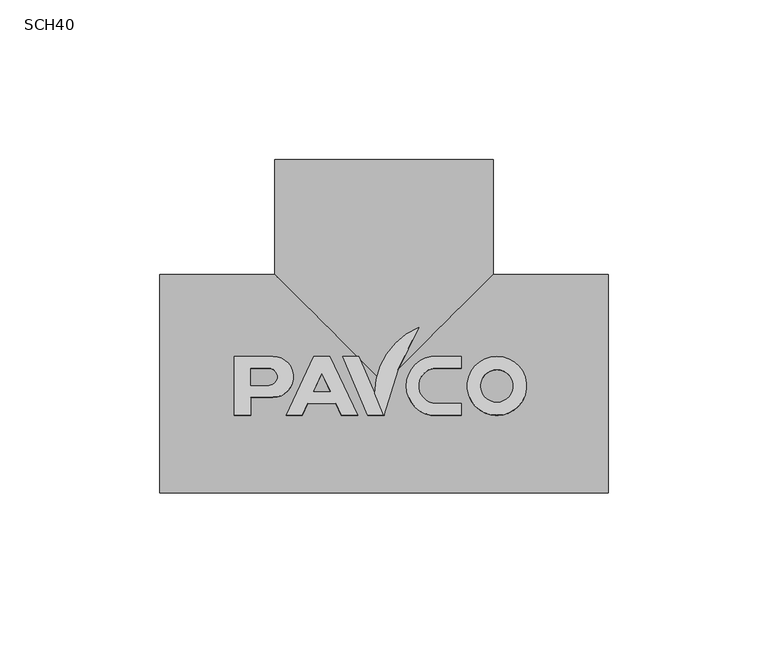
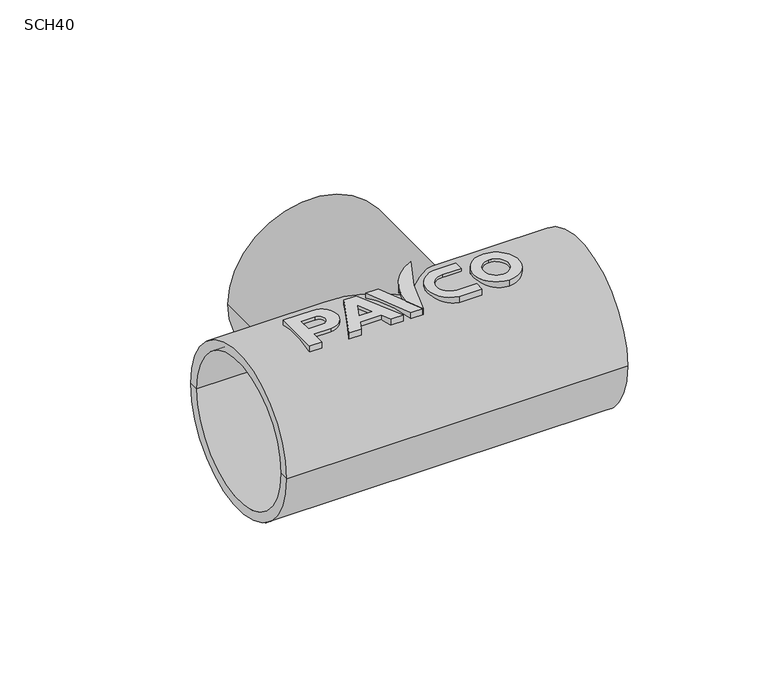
"""IFC4 building model written with IfcOpenShell, lengths in millimetres: pipe fitting geometry, PavcoWavin_UnionesDeTuberia_PVCPresionTee : SCH40."""

import ifcopenshell
import ifcopenshell.guid

model = None  # the IFC model being written
_history = None  # IfcOwnerHistory: only IFC2X3 demands one
_inside = {}  # id of a spatial element -> (the spatial element, [elements in it])
_under = {}  # id of a project, library or spatial element -> (it, [spatial elements below it])
_declared = {}  # id of a project -> (the project, [libraries it declares])
_typed = {}  # id of a type object -> (the type object, [elements of that type])
_made_of = {}  # id of a material, layer set ... -> (it, [elements and type objects made of it])


def new_model(schema):
    """Start an empty IFC model of exactly this schema.

    Asked for "IFC4X3", IfcOpenShell would pick the latest addendum, in which some entities
    have other attributes; the version numbers below select the first issue.
    IFC2X3 requires an IfcOwnerHistory on every rooted entity: one is made here for all.
    """
    global model, _history
    if schema == "IFC4X3":
        model = ifcopenshell.file(schema_version=(4, 3, 0, 0))
    else:
        model = ifcopenshell.file(schema=schema)
    _inside.clear()
    _under.clear()
    _declared.clear()
    _typed.clear()
    _made_of.clear()
    _history = None
    if model.schema == "IFC2X3":
        org = make("IfcOrganization", Name="unknown")
        user = make(
            "IfcPersonAndOrganization",
            ThePerson=make("IfcPerson", FamilyName="unknown"),
            TheOrganization=org,
        )
        app = make(
            "IfcApplication",
            ApplicationDeveloper=org,
            Version="unknown",
            ApplicationFullName="unknown",
            ApplicationIdentifier="unknown",
        )
        _history = make(
            "IfcOwnerHistory",
            OwningUser=user,
            OwningApplication=app,
            ChangeAction="ADDED",
            CreationDate=0,
        )
    return model


def make(cls, **values):
    """One entity of the class cls with the attributes given. An attribute that is None is left unset."""
    return model.create_entity(
        cls, **{name: value for name, value in values.items() if value is not None}
    )


def rooted(cls, **values):
    """An entity with a GlobalId (a new one), such as an element, a storey or a relation."""
    return make(cls, GlobalId=ifcopenshell.guid.new(), OwnerHistory=_history, **values)


def si_unit(unit_type, name, prefix=None):
    """IfcSIUnit, for example si_unit("LENGTHUNIT", "METRE", prefix="MILLI")."""
    return make("IfcSIUnit", UnitType=unit_type, Prefix=prefix, Name=name)


def assignment(units):
    """IfcUnitAssignment: the units of a project."""
    return None if units is None else make("IfcUnitAssignment", Units=units)


def point(xyz):
    """IfcCartesianPoint."""
    return None if xyz is None else make("IfcCartesianPoint", Coordinates=xyz)


def direction(xyz):
    """IfcDirection."""
    return None if xyz is None else make("IfcDirection", DirectionRatios=xyz)


def frame(location, z_axis=None, x_axis=None):
    """IfcAxis2Placement3D, a coordinate frame: its origin and axes. An axis left out is left unset."""
    return make(
        "IfcAxis2Placement3D",
        Location=point(location),
        Axis=direction(z_axis),
        RefDirection=direction(x_axis),
    )


def frame_2d(location, x_axis=None):
    """IfcAxis2Placement2D, a coordinate frame in the plane: its origin and x axis."""
    return make(
        "IfcAxis2Placement2D", Location=point(location), RefDirection=direction(x_axis)
    )


def origin():
    """The frame at (0, 0, 0) with its axes left unset."""
    return frame((0.0, 0.0, 0.0))


def place(relative_to, where):
    """IfcLocalPlacement: puts the frame where relative to a parent placement (None: the world)."""
    return make(
        "IfcLocalPlacement", PlacementRelTo=relative_to, RelativePlacement=where
    )


def context(
    kind, dimensions, precision=None, world=None, true_north=None, identifier=None
):
    """IfcGeometricRepresentationContext, for example the 3D "Model" context."""
    return make(
        "IfcGeometricRepresentationContext",
        ContextIdentifier=identifier,
        ContextType=kind,
        CoordinateSpaceDimension=dimensions,
        Precision=precision,
        WorldCoordinateSystem=world,
        TrueNorth=true_north,
    )


def project(units=None, contexts=None):
    """IfcProject with its units and contexts."""
    return rooted(
        "IfcProject",
        Name="project",
        RepresentationContexts=contexts,
        UnitsInContext=assignment(units),
    )


def spatial(cls, under=None, at=None, **own):
    """A site, building, storey or space (cls), placed at a placement, below another one or the project."""
    s = rooted(cls, ObjectPlacement=at, **own)
    if under is not None:
        _under.setdefault(under.id(), (under, []))[1].append(s)
    return s


def polyline(points):
    """IfcPolyline through the points."""
    return make("IfcPolyline", Points=[point(p) for p in points])


def circle_curve(where, radius):
    """IfcCircle in the frame where."""
    return make("IfcCircle", Position=where, Radius=radius)


def ellipse_curve(where, semi_axis1, semi_axis2):
    """IfcEllipse in the frame where."""
    return make(
        "IfcEllipse", Position=where, SemiAxis1=semi_axis1, SemiAxis2=semi_axis2
    )


def trimmed(basis, trim1, trim2, sense, master):
    """IfcTrimmedCurve: the piece of a basis curve between two trims."""
    return make(
        "IfcTrimmedCurve",
        BasisCurve=basis,
        Trim1=trim1,
        Trim2=trim2,
        SenseAgreement=sense,
        MasterRepresentation=master,
    )


def segment(curve, same_sense, transition):
    """IfcCompositeCurveSegment."""
    return make(
        "IfcCompositeCurveSegment",
        Transition=transition,
        SameSense=same_sense,
        ParentCurve=curve,
    )


def composite_curve(segments, self_intersect=None):
    """IfcCompositeCurve: segments joined end to end."""
    return make("IfcCompositeCurve", Segments=segments, SelfIntersect=self_intersect)


def outline(outer, holes=None, kind="AREA"):
    """IfcArbitraryClosedProfileDef: a profile drawn as a closed curve; with holes, ...WithVoids."""
    if holes is None:
        return make("IfcArbitraryClosedProfileDef", ProfileType=kind, OuterCurve=outer)
    return make(
        "IfcArbitraryProfileDefWithVoids",
        ProfileType=kind,
        OuterCurve=outer,
        InnerCurves=holes,
    )


def extrude(swept, where, along, depth):
    """IfcExtrudedAreaSolid: the profile swept, set in the frame where, extruded along a direction by depth."""
    return make(
        "IfcExtrudedAreaSolid",
        SweptArea=swept,
        Position=where,
        ExtrudedDirection=direction(along),
        Depth=depth,
    )


def shape(context_of_items, identifier, shape_type, items):
    """IfcShapeRepresentation: the items that make up one representation, for example the "Body"."""
    return make(
        "IfcShapeRepresentation",
        ContextOfItems=context_of_items,
        RepresentationIdentifier=identifier,
        RepresentationType=shape_type,
        Items=items,
    )


def source(mapping_origin, context_of_items, identifier, shape_type, items):
    """IfcRepresentationMap: a shape defined once, which mapped items show again and again."""
    return make(
        "IfcRepresentationMap",
        MappingOrigin=mapping_origin,
        MappedRepresentation=shape(context_of_items, identifier, shape_type, items),
    )


def transform(
    local_origin,
    x_axis=None,
    y_axis=None,
    z_axis=None,
    scale=None,
    scale2=None,
    scale3=None,
    uniform=True,
):
    """IfcCartesianTransformationOperator3D, or its non-uniform kind. x_axis, y_axis, z_axis: its Axis1, 2, 3."""
    if uniform:
        return make(
            "IfcCartesianTransformationOperator3D",
            Axis1=direction(x_axis),
            Axis2=direction(y_axis),
            LocalOrigin=point(local_origin),
            Scale=scale,
            Axis3=direction(z_axis),
        )
    return make(
        "IfcCartesianTransformationOperator3DnonUniform",
        Axis1=direction(x_axis),
        Axis2=direction(y_axis),
        LocalOrigin=point(local_origin),
        Scale=scale,
        Axis3=direction(z_axis),
        Scale2=scale2,
        Scale3=scale3,
    )


def mapped(mapping_source, mapping_target):
    """IfcMappedItem: shows the shape of a source again, moved by a transform."""
    return make(
        "IfcMappedItem", MappingSource=mapping_source, MappingTarget=mapping_target
    )


def made_of(thing, what):
    """Note that an element or type object is made of a material, layer set ...; save() writes the relation."""
    if what is not None:
        _made_of.setdefault(what.id(), (what, []))[1].append(thing)
    return thing


def element(
    cls,
    number,
    at=None,
    inside=None,
    cuts=None,
    type_object=None,
    material=None,
    context=None,
    identifier="Body",
    shape_type=None,
    held_by="IfcProductDefinitionShape",
    body=None,
    shapes=None,
    **own,
):
    """One element of the class cls, such as IfcWall. Its Tag is "e" and its number.

    at: its placement. inside: the storey or other place that contains it. cuts: it is an
    opening in that element (IfcRelVoidsElement). A single representation is given by context,
    identifier, shape_type and body (its items); several are given by shapes. held_by: the class
    of the entity that holds the representations. save() writes the other relations.
    """
    e = rooted(cls, Tag="e%d" % number, ObjectPlacement=at, **own)
    if body is not None:
        shapes = [shape(context, identifier, shape_type, body)]
    if shapes is not None:
        e.Representation = make(held_by, Representations=shapes)
    if inside is not None:
        _inside.setdefault(inside.id(), (inside, []))[1].append(e)
    if cuts is not None:
        rooted(
            "IfcRelVoidsElement", RelatingBuildingElement=cuts, RelatedOpeningElement=e
        )
    if type_object is not None:
        _typed.setdefault(type_object.id(), (type_object, []))[1].append(e)
    return made_of(e, material)


def aggregate(whole, parts):
    """IfcRelAggregates: a whole, such as a stair, and the parts it consists of."""
    return rooted("IfcRelAggregates", RelatingObject=whole, RelatedObjects=parts)


def save(model, path):
    """Write the relations noted so far, then the file.

    IfcRelAggregates (storeys below a building ...), IfcRelContainedInSpatialStructure (elements
    in a storey), IfcRelDefinesByType, IfcRelAssociatesMaterial and IfcRelDeclares: one each for
    every whole, place, type object, material and project.
    """
    for whole, parts in _under.values():
        aggregate(whole, parts)
    for where, things in _inside.values():
        rooted(
            "IfcRelContainedInSpatialStructure",
            RelatedElements=things,
            RelatingStructure=where,
        )
    for kind, things in _typed.values():
        rooted("IfcRelDefinesByType", RelatedObjects=things, RelatingType=kind)
    for what, things in _made_of.values():
        rooted("IfcRelAssociatesMaterial", RelatedObjects=things, RelatingMaterial=what)
    for by, libraries in _declared.values():
        rooted("IfcRelDeclares", RelatingContext=by, RelatedDefinitions=libraries)
    model.write(path)


def plane_surface(at):
    """IfcPlane: the flat surface through the origin of the frame at, square to its z axis."""
    return make("IfcPlane", Position=at)


def cylinder_surface(at, radius):
    """IfcCylindricalSurface: all points at the distance radius from the z axis of the frame at."""
    return make("IfcCylindricalSurface", Position=at, Radius=radius)


def revolved_surface(curve, axis_point, axis_direction):
    """IfcSurfaceOfRevolution: the curve turned about the line through axis_point along axis_direction."""
    return make(
        "IfcSurfaceOfRevolution",
        SweptCurve=make("IfcArbitraryOpenProfileDef", ProfileType="CURVE", Curve=curve),
        AxisPosition=make("IfcAxis1Placement", Location=point(axis_point), Axis=direction(axis_direction)),
    )


def advanced_brep(points, edges, surfaces, faces):
    """IfcAdvancedBrep: a solid bounded by faces that lie on surfaces and meet in shared edges.

    An edge is (start, end): straight between two places in points (the first is 0);
    or (start, end, curve); or (start, end, curve, False) where it runs against its curve.
    A face is (place in surfaces, loops), or (place, loops, False) where it looks against
    its surface's normal. A loop lists edges by number (the first is 1), with a minus sign
    where the edge is run from its end to its start. The first loop is the outer one.
    """
    corners = [point(p) for p in points]
    vertices = [make("IfcVertexPoint", VertexGeometry=c) for c in corners]
    made = []
    for start, end, *more in edges:
        made.append(
            make(
                "IfcEdgeCurve",
                EdgeStart=vertices[start],
                EdgeEnd=vertices[end],
                EdgeGeometry=more[0] if more else make("IfcPolyline", Points=[corners[start], corners[end]]),
                SameSense=more[1] if len(more) > 1 else True,
            )
        )
    hull = []
    for where, loops, *sense in faces:
        bounds = []
        for j, loop in enumerate(loops):
            ring = [make("IfcOrientedEdge", EdgeElement=made[abs(k) - 1], Orientation=k > 0) for k in loop]
            bounds.append(
                make(
                    "IfcFaceOuterBound" if j == 0 else "IfcFaceBound",
                    Bound=make("IfcEdgeLoop", EdgeList=ring),
                    Orientation=True,
                )
            )
        hull.append(make("IfcAdvancedFace", Bounds=bounds, FaceSurface=surfaces[where], SameSense=sense[0] if sense else True))
    return make("IfcAdvancedBrep", Outer=make("IfcClosedShell", CfsFaces=hull))


def sch40_1e0d48bb(model_context):
    return source(origin(), model_context, "Body", "SolidModel", [
        extrude(outline(polyline([(0.0, 0.0), (5.08, 0.0), (13.7262766, -18.542), (8.6462766, -18.542), (6.8696444, -14.732), (-1.7896444, -14.732), (-3.5662766, -18.542), (-8.6462766, -18.542), (0.0, 0.0)]), holes=[polyline([(5.1167007, -10.9727999), (2.54, -5.4470476), (-0.0367007, -10.9727999), (5.1167007, -10.9727999)])]), frame((16.9012766, 8.4922835, -34.9551261), z_axis=(0.0, -0.0002484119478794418, 0.9999999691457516), x_axis=(1.0, 0.0, 0.0)), (0.0, 0.0, 1.0), 2.6455373),
        extrude(outline(composite_curve([segment(polyline([(-7.5692, 0.0), (0.0, 0.0)]), True, "CONTINUOUS"), segment(trimmed(circle_curve(frame_2d((55.6167117, -77.9199081)), 95.7326), [point((0.0, 0.0))], [point((-21.1313779, -20.696998))], True, "CARTESIAN"), True, "CONTINUOUS"), segment(trimmed(circle_curve(frame_2d((1.5253568, -20.7513764)), 22.6568), [point((-21.1313779, -20.696998))], [point((-7.5692, 0.0))], False, "CARTESIAN"), True, "CONTINUOUS")], self_intersect=False)), frame((0.0, -10.0497159, -34.9597321), z_axis=(0.0, -0.0002484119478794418, 0.9999999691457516), x_axis=(-0.3907311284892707, -0.9205048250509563, -0.00022866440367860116)), (0.0, 0.0, 1.0), 2.6455373),
        extrude(outline(polyline([(0.0, 0.0), (5.08, 0.0), (-2.790612, -18.542), (-7.870612, -18.542), (0.0, 0.0)])), frame((5.08, -10.0497159, -34.9597321), z_axis=(0.0, -0.0002484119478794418, 0.9999999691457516), x_axis=(-1.0, 0.0, 0.0)), (0.0, 0.0, 1.0), 2.6455373),
        extrude(outline(composite_curve([segment(trimmed(circle_curve(frame_2d((0.0, -9.4112923)), 9.4112924), [point((-1.618945, -18.6822923))], [point((-1.618945, -0.1402923))], False, "CARTESIAN"), True, "CONTINUOUS"), segment(polyline([(-1.618945, -0.1402923), (7.7591076, -0.1402923), (7.7591076, -3.9502923), (-0.1402924, -3.9502923)]), True, "CONTINUOUS"), segment(trimmed(circle_curve(frame_2d((-0.1402924, -9.4112923)), 5.461), [point((-0.1402924, -3.9502923))], [point((-0.1402924, -14.8722924))], True, "CARTESIAN"), True, "CONTINUOUS"), segment(polyline([(-0.1402924, -14.8722924), (7.7591076, -14.8722924), (7.7591076, -18.6822923), (-1.618945, -18.6822923)]), True, "CONTINUOUS")], self_intersect=False)), frame((-16.3962924, -10.1900082, -34.959767), z_axis=(0.0, -0.0002484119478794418, 0.9999999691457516), x_axis=(-1.0, 0.0, 0.0)), (0.0, 0.0, 1.0), 2.6455373),
        extrude(outline(composite_curve([segment(trimmed(circle_curve(frame_2d((0.0, -9.271)), 9.271), [point((0.0, -18.542))], [point((0.0, 0.0))], False, "CARTESIAN"), True, "CONTINUOUS"), segment(trimmed(circle_curve(frame_2d((0.0, -9.271)), 9.271), [point((0.0, 0.0))], [point((0.0, -18.542))], False, "CARTESIAN"), True, "CONTINUOUS")], self_intersect=False), holes=[composite_curve([segment(trimmed(circle_curve(frame_2d((0.0, -9.271)), 5.0376667), [point((0.0, -14.3086666))], [point((0.0, -4.2333333))], True, "CARTESIAN"), True, "CONTINUOUS"), segment(trimmed(circle_curve(frame_2d((0.0, -9.271)), 5.0376667), [point((0.0, -4.2333333))], [point((0.0, -14.3086666))], True, "CARTESIAN"), True, "CONTINUOUS")], self_intersect=False)]), frame((-35.306, -10.0497159, -34.9597321), z_axis=(0.0, -0.0002484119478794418, 0.9999999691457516), x_axis=(-1.0, 0.0, 0.0)), (0.0, 0.0, 1.0), 2.6455373),
        extrude(outline(composite_curve([segment(polyline([(-18.542, 0.0), (0.0, 0.0), (0.0, -5.08), (-5.6642, -5.08), (-5.6642, -11.9770539)]), True, "CONTINUOUS"), segment(trimmed(circle_curve(frame_2d((-12.1031, -11.9770539)), 6.4389), [point((-5.6642, -11.9770539))], [point((-18.542, -11.9770539))], False, "CARTESIAN"), True, "CONTINUOUS"), segment(polyline([(-18.542, -11.9770539), (-18.542, 0.0)]), True, "CONTINUOUS")], self_intersect=False), holes=[composite_curve([segment(polyline([(-9.4742, -5.08), (-14.7320001, -5.08), (-14.7320001, -10.7188)]), True, "CONTINUOUS"), segment(trimmed(circle_curve(frame_2d((-12.1031, -10.7188)), 2.6289), [point((-14.7320001, -10.7188))], [point((-9.4742, -10.7188))], True, "CARTESIAN"), True, "CONTINUOUS"), segment(polyline([(-9.4742, -10.7188), (-9.4742, -5.08)]), True, "CONTINUOUS")], self_intersect=False)]), frame((46.7614, -10.0497159, -34.9597321), z_axis=(0.0, -0.0002484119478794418, 0.9999999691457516), x_axis=(0.0, -0.9999999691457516, -0.0002484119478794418)), (0.0, 0.0, 1.0), 2.6455373),
        extrude(outline(polyline([(0.0, 0.0), (8.6462766, -18.542), (3.5662766, -18.542), (1.7896444, -14.7319999), (-6.8696444, -14.7319999), (-8.6462766, -18.542), (-13.7262766, -18.542), (-5.08, 0.0), (0.0, 0.0)]), holes=[polyline([(-5.1167007, -10.9727999), (0.0367007, -10.9727999), (-2.54, -5.4470476), (-5.1167007, -10.9727999)])]), frame((-16.9012766, 8.5627588, 32.2908101), z_axis=(0.0, 0.002450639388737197, 0.9999969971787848), x_axis=(1.0, 0.0, 0.0)), (0.0, 0.0, 1.0), 2.6455373),
        extrude(outline(composite_curve([segment(trimmed(circle_curve(frame_2d((-1.5253569, -20.7513764)), 22.6568), [point((7.5692, 0.0))], [point((21.131378, -20.6969981))], False, "CARTESIAN"), True, "CONTINUOUS"), segment(trimmed(circle_curve(frame_2d((-55.6167117, -77.9199081)), 95.7326), [point((21.131378, -20.6969981))], [point((0.0, 0.0))], True, "CARTESIAN"), True, "CONTINUOUS"), segment(polyline([(0.0, 0.0), (7.5692, 0.0)]), True, "CONTINUOUS")], self_intersect=False)), frame((0.0, -9.9791855, 32.3362498), z_axis=(0.0, 0.0024506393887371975, 0.9999969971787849), x_axis=(-0.39073112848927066, 0.920502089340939, -0.002255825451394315)), (0.0, 0.0, 1.0), 2.6455373),
        extrude(outline(polyline([(0.0, 0.0), (7.870612, -18.542), (2.790612, -18.542), (-5.08, 0.0), (0.0, 0.0)])), frame((-5.08, -9.9791855, 32.3362498), z_axis=(0.0, 0.002450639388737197, 0.9999969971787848), x_axis=(-1.0, 0.0, 0.0)), (0.0, 0.0, 1.0), 2.6455373),
        extrude(outline(composite_curve([segment(polyline([(1.618945, -18.6822923), (-7.7591076, -18.6822923), (-7.7591076, -14.8722924), (0.1402924, -14.8722924)]), True, "CONTINUOUS"), segment(trimmed(circle_curve(frame_2d((0.1402924, -9.4112924)), 5.461), [point((0.1402924, -14.8722924))], [point((0.1402924, -3.9502924))], True, "CARTESIAN"), True, "CONTINUOUS"), segment(polyline([(0.1402924, -3.9502924), (-7.7591076, -3.9502924), (-7.7591076, -0.1402923), (1.618945, -0.1402923)]), True, "CONTINUOUS"), segment(trimmed(circle_curve(frame_2d((0.0, -9.4112924)), 9.4112924), [point((1.618945, -0.1402923))], [point((1.618945, -18.6822923))], False, "CARTESIAN"), True, "CONTINUOUS")], self_intersect=False)), frame((16.3962924, -10.1194774, 32.3365936), z_axis=(0.0, 0.002450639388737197, 0.9999969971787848), x_axis=(-1.0, 0.0, 0.0)), (0.0, 0.0, 1.0), 2.6455373),
        extrude(outline(composite_curve([segment(trimmed(circle_curve(frame_2d((0.0, -9.271)), 9.271), [point((0.0, -18.542))], [point((0.0, 0.0))], False, "CARTESIAN"), True, "CONTINUOUS"), segment(trimmed(circle_curve(frame_2d((0.0, -9.271)), 9.271), [point((0.0, 0.0))], [point((0.0, -18.542))], False, "CARTESIAN"), True, "CONTINUOUS")], self_intersect=False), holes=[composite_curve([segment(trimmed(circle_curve(frame_2d((0.0, -9.271)), 5.0376667), [point((0.0, -14.3086667))], [point((0.0, -4.2333333))], True, "CARTESIAN"), True, "CONTINUOUS"), segment(trimmed(circle_curve(frame_2d((0.0, -9.271)), 5.0376667), [point((0.0, -4.2333333))], [point((0.0, -14.3086667))], True, "CARTESIAN"), True, "CONTINUOUS")], self_intersect=False)]), frame((35.306, -9.9791855, 32.3362498), z_axis=(0.0, 0.002450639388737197, 0.9999969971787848), x_axis=(-1.0, 0.0, 0.0)), (0.0, 0.0, 1.0), 2.6455373),
        extrude(outline(composite_curve([segment(polyline([(18.542, 0.0), (18.542, -11.9770539)]), True, "CONTINUOUS"), segment(trimmed(circle_curve(frame_2d((12.1031, -11.9770539)), 6.4389), [point((18.542, -11.9770539))], [point((5.6642, -11.9770539))], False, "CARTESIAN"), True, "CONTINUOUS"), segment(polyline([(5.6642, -11.9770539), (5.6642, -5.08), (0.0, -5.08), (0.0, 0.0), (18.542, 0.0)]), True, "CONTINUOUS")], self_intersect=False), holes=[composite_curve([segment(polyline([(9.4742, -5.08), (9.4742, -10.7188)]), True, "CONTINUOUS"), segment(trimmed(circle_curve(frame_2d((12.1031, -10.7188)), 2.6289), [point((9.4742, -10.7188))], [point((14.732, -10.7188))], True, "CARTESIAN"), True, "CONTINUOUS"), segment(polyline([(14.732, -10.7188), (14.732, -5.08), (9.4742, -5.08)]), True, "CONTINUOUS")], self_intersect=False)]), frame((-46.7614, -9.9791855, 32.3362498), z_axis=(0.0, 0.002450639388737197, 0.9999969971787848), x_axis=(0.0, 0.9999969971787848, -0.002450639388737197)), (0.0, 0.0, 1.0), 2.6455373),
        advanced_brep(
        [(70.05, -34.163, 0.0), (70.05, 34.163, 0.0), (70.05, 30.165, 0.0), (70.05, -30.165, 0.0), (-70.05, -34.163, 0.0), (-70.05, 34.163, 0.0), (-34.163, 34.163, 0.0), (0.0, 0.0, -34.163), (34.163, 34.163, 0.0), (0.0, 0.0, 34.163), (-70.05, -30.165, 0.0), (-70.05, 30.165, 0.0), (-34.163, 70.05, 0.0), (34.163, 70.05, 0.0), (-30.165, 70.05, 0.0), (30.165, 70.05, 0.0), (-31.85, -30.165, 0.0), (-31.85, 30.165, 0.0), (-31.85, 0.0, 0.0), (31.85, -30.165, 0.0), (31.85, 30.165, 0.0), (31.85, 0.0, 0.0), (30.165, 31.85, 0.0), (-30.165, 31.85, 0.0), (0.0, 31.85, 0.0)],
        [
            (0, 1, circle_curve(frame((70.05, 0.0, 0.0), z_axis=(1.0, 0.0, 0.0), x_axis=(0.0, 1.0, 0.0)), 34.163)),
            (1, 2),
            (2, 3, circle_curve(frame((70.05, 0.0, 0.0), z_axis=(-1.0, 0.0, 0.0), x_axis=(0.0, 1.0, 0.0)), 30.165)),
            (3, 0),
            (1, 0, circle_curve(frame((70.05, 0.0, 0.0), z_axis=(1.0, 0.0, 0.0), x_axis=(0.0, 1.0, 0.0)), 34.163)),
            (3, 2, circle_curve(frame((70.05, 0.0, 0.0), z_axis=(-1.0, 0.0, 0.0), x_axis=(0.0, 1.0, 0.0)), 30.165)),
            (0, 4),
            (4, 5, circle_curve(frame((-70.05, 0.0, 0.0), z_axis=(1.0, 0.0, 0.0), x_axis=(0.0, 1.0, 0.0)), 34.163)),
            (5, 6),
            (6, 7, ellipse_curve(frame((0.0, 0.0, 0.0), z_axis=(-0.7071067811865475, -0.7071067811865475, 0.0), x_axis=(-0.7071067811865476, 0.7071067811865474, 0.0)), 48.3137779, 34.163)),
            (7, 8, ellipse_curve(frame((0.0, 0.0, 0.0), z_axis=(0.7071067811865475, -0.7071067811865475, 0.0), x_axis=(-0.7071067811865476, -0.7071067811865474, 0.0)), 48.3137779, 34.163)),
            (8, 1),
            (8, 9, ellipse_curve(frame((0.0, 0.0, 0.0), z_axis=(0.7071067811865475, -0.7071067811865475, 0.0), x_axis=(-0.7071067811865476, -0.7071067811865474, 0.0)), 48.3137779, 34.163)),
            (9, 6, ellipse_curve(frame((0.0, 0.0, 0.0), z_axis=(-0.7071067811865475, -0.7071067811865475, 0.0), x_axis=(-0.7071067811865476, 0.7071067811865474, 0.0)), 48.3137779, 34.163)),
            (5, 4, circle_curve(frame((-70.05, 0.0, 0.0), z_axis=(1.0, 0.0, 0.0), x_axis=(0.0, 1.0, 0.0)), 34.163)),
            (4, 10),
            (10, 11, circle_curve(frame((-70.05, 0.0, 0.0), z_axis=(1.0, 0.0, 0.0), x_axis=(0.0, 1.0, 0.0)), 30.165)),
            (11, 5),
            (11, 10, circle_curve(frame((-70.05, 0.0, 0.0), z_axis=(1.0, 0.0, 0.0), x_axis=(0.0, 1.0, 0.0)), 30.165)),
            (12, 13, circle_curve(frame((0.0, 70.05, 0.0), z_axis=(0.0, -1.0, 0.0), x_axis=(1.0, 0.0, 0.0)), 34.163)),
            (13, 8),
            (6, 12),
            (13, 12, circle_curve(frame((0.0, 70.05, 0.0), z_axis=(0.0, -1.0, 0.0), x_axis=(1.0, 0.0, 0.0)), 34.163)),
            (12, 14),
            (14, 15, circle_curve(frame((0.0, 70.05, 0.0), z_axis=(0.0, -1.0, 0.0), x_axis=(-1.0, 0.0, 0.0)), 30.165)),
            (15, 13),
            (15, 14, circle_curve(frame((0.0, 70.05, 0.0), z_axis=(0.0, -1.0, 0.0), x_axis=(-1.0, 0.0, 0.0)), 30.165)),
            (10, 16),
            (16, 17, circle_curve(frame((-31.85, 0.0, 0.0), z_axis=(1.0, 0.0, 0.0), x_axis=(0.0, 1.0, 0.0)), 30.165)),
            (17, 11),
            (17, 16, circle_curve(frame((-31.85, 0.0, 0.0), z_axis=(1.0, 0.0, 0.0), x_axis=(0.0, 1.0, 0.0)), 30.165)),
            (16, 18),
            (18, 17),
            (19, 3),
            (2, 20),
            (20, 19, circle_curve(frame((31.85, 0.0, 0.0), z_axis=(-1.0, 0.0, 0.0), x_axis=(0.0, 1.0, 0.0)), 30.165)),
            (19, 20, circle_curve(frame((31.85, 0.0, 0.0), z_axis=(-1.0, 0.0, 0.0), x_axis=(0.0, 1.0, 0.0)), 30.165)),
            (20, 21),
            (21, 19),
            (22, 15),
            (14, 23),
            (23, 22, circle_curve(frame((0.0, 31.85, 0.0), z_axis=(0.0, -1.0, 0.0), x_axis=(-1.0, 0.0, 0.0)), 30.165)),
            (22, 23, circle_curve(frame((0.0, 31.85, 0.0), z_axis=(0.0, -1.0, 0.0), x_axis=(-1.0, 0.0, 0.0)), 30.165)),
            (23, 24),
            (24, 22),
        ],
        [
            plane_surface(frame((70.05, 0.0, 0.0), z_axis=(1.0, 0.0, 0.0), x_axis=(0.0, 1.0, 0.0))),
            cylinder_surface(frame((1910.05, 0.0, 0.0), z_axis=(-1.0, 0.0, 0.0), x_axis=(0.0, 1.0, 0.0)), 34.163),
            plane_surface(frame((-70.05, 0.0, 0.0), z_axis=(-1.0, 0.0, 0.0), x_axis=(0.0, 1.0, 0.0))),
            cylinder_surface(frame((0.0, 1910.05, 0.0), z_axis=(0.0, 1.0, 0.0), x_axis=(1.0, 0.0, 0.0)), 34.163),
            plane_surface(frame((0.0, 70.05, 0.0), z_axis=(0.0, 1.0, 0.0), x_axis=(1.0, 0.0, 0.0))),
            revolved_surface(polyline([(-70.04999999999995, 30.165, 0.0), (-31.84999999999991, 30.165, 0.0)]), (1973.2125, 0.0, 0.0), (-1.0, 0.0, 0.0)),
            plane_surface(frame((-31.85, 0.0, 0.0), z_axis=(-1.0, 0.0, 0.0), x_axis=(0.0, 1.0, 0.0))),
            revolved_surface(polyline([(31.84999999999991, 30.165, 0.0), (70.04999999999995, 30.165, 0.0)]), (1973.2125, 0.0, 0.0), (-1.0, 0.0, 0.0)),
            plane_surface(frame((31.85, 0.0, 0.0), z_axis=(1.0, 0.0, 0.0), x_axis=(0.0, 1.0, 0.0))),
            revolved_surface(polyline([(-30.165, 31.84999999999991, 0.0), (-30.165, 70.04999999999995, 0.0)]), (0.0, 1973.2125, 0.0), (0.0, -1.0, 0.0)),
            plane_surface(frame((0.0, 31.85, 0.0), z_axis=(0.0, 1.0, 0.0), x_axis=(-1.0, 0.0, 0.0))),
        ],
        [
            (0, [[1, 2, 3, 4]]),
            (0, [[5, -4, 6, -2]]),
            (1, [[-1, 7, 8, 9, 10, 11, 12]]),
            (1, [[-5, -12, 13, 14, -9, 15, -7]]),
            (2, [[-8, 16, 17, 18]]),
            (2, [[-15, -18, 19, -16]]),
            (3, [[20, 21, -11, -10, 22]]),
            (3, [[23, -22, -14, -13, -21]]),
            (4, [[-20, 24, 25, 26]]),
            (4, [[-23, -26, 27, -24]]),
            (5, [[28, 29, 30, -17]]),
            (5, [[-28, -19, -30, 31]]),
            (6, [[-29, 32, 33]]),
            (6, [[-31, -33, -32]]),
            (7, [[34, -3, 35, 36]]),
            (7, [[-34, 37, -35, -6]]),
            (8, [[-36, 38, 39]]),
            (8, [[-37, -39, -38]]),
            (9, [[40, -25, 41, 42]]),
            (9, [[-40, 43, -41, -27]]),
            (10, [[-42, 44, 45]]),
            (10, [[-43, -45, -44]]),
        ],
    ),
    ])


if __name__ == "__main__":
    model = new_model("IFC4")
    model_context = context("Model", 3, world=origin())
    ifc_project = project(units=[si_unit("LENGTHUNIT", "METRE", prefix="MILLI")], contexts=[model_context])
    site = spatial("IfcSite", under=ifc_project)
    building = spatial("IfcBuilding", under=site)
    placement = place(None, origin())
    sch40_shape = sch40_1e0d48bb(model_context)
    element("IfcPipeFitting", 1, ObjectType="PavcoWavin_UnionesDeTuberia_PVCPresionTee : SCH40", at=placement, inside=building, context=model_context, shape_type="MappedRepresentation", body=[
        mapped(sch40_shape, transform((0.0, 0.0, 0.0), x_axis=(1.0, 0.0, 0.0), y_axis=(0.0, 1.0, 0.0), z_axis=(0.0, 0.0, 1.0))),
    ])
    save(model, "model.ifc")
